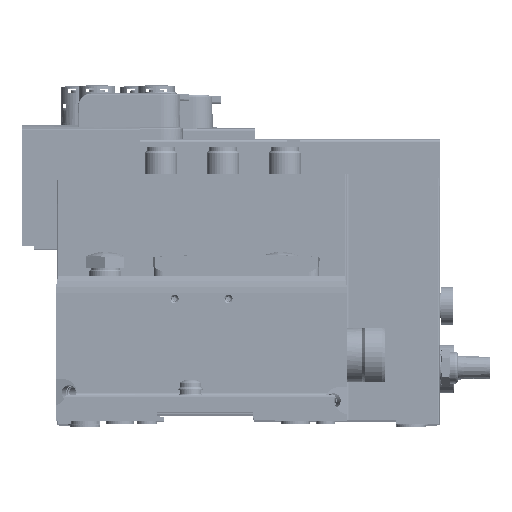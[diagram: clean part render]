
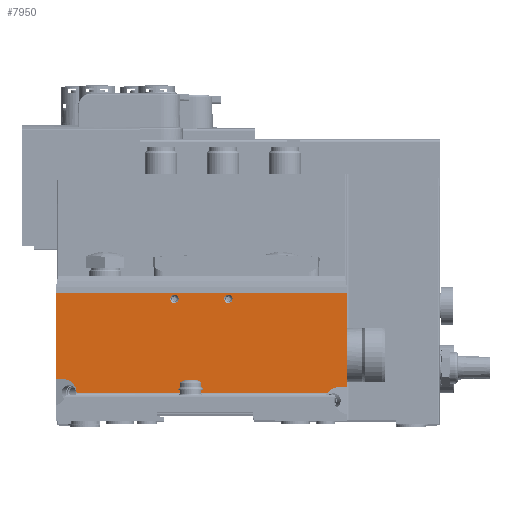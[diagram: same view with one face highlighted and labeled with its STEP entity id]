
A CAD part, top view. The second image highlights one B-rep face of the part: STEP entity #7950.
In plain terms, the highlighted planar face has unit normal (0, 0, 1) as drawn and (-1, 0, 0) by its records, which use the part's own axes.
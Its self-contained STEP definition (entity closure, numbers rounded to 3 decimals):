
#7950 = ADVANCED_FACE( '', ( #17798, #17799, #17800 ), #17801, .F. );
#17798 = FACE_BOUND( '', #29721, .T. );
#17799 = FACE_BOUND( '', #29722, .T. );
#17800 = FACE_OUTER_BOUND( '', #29723, .T. );
#17801 = PLANE( '', #29724 );
#29721 = EDGE_LOOP( '', ( #51337 ) );
#29722 = EDGE_LOOP( '', ( #51338 ) );
#29723 = EDGE_LOOP( '', ( #51339, #51340, #51341, #51342, #51343, #51344, #51345, #51346 ) );
#29724 = AXIS2_PLACEMENT_3D( '', #51347, #51348, #51349 );
#51337 = ORIENTED_EDGE( '', *, *, #69911, .T. );
#51338 = ORIENTED_EDGE( '', *, *, #72925, .T. );
#51339 = ORIENTED_EDGE( '', *, *, #70958, .T. );
#51340 = ORIENTED_EDGE( '', *, *, #72926, .T. );
#51341 = ORIENTED_EDGE( '', *, *, #72927, .F. );
#51342 = ORIENTED_EDGE( '', *, *, #72928, .F. );
#51343 = ORIENTED_EDGE( '', *, *, #72929, .F. );
#51344 = ORIENTED_EDGE( '', *, *, #70045, .T. );
#51345 = ORIENTED_EDGE( '', *, *, #70898, .F. );
#51346 = ORIENTED_EDGE( '', *, *, #66646, .T. );
#51347 = CARTESIAN_POINT( '', ( -15.4, 48.7, 54.05 ) );
#51348 = DIRECTION( '', ( 1., 0., 0. ) );
#51349 = DIRECTION( '', ( 0., 0., -1. ) );
#66646 = EDGE_CURVE( '', #79392, #79398, #79400, .T. );
#69911 = EDGE_CURVE( '', #84761, #84761, #84762, .T. );
#70045 = EDGE_CURVE( '', #84959, #84963, #84965, .T. );
#70898 = EDGE_CURVE( '', #79392, #84963, #86272, .T. );
#70958 = EDGE_CURVE( '', #79398, #86357, #86359, .T. );
#72925 = EDGE_CURVE( '', #89128, #89128, #89129, .T. );
#72926 = EDGE_CURVE( '', #86357, #89130, #89131, .T. );
#72927 = EDGE_CURVE( '', #89132, #89130, #89133, .F. );
#72928 = EDGE_CURVE( '', #89134, #89132, #89135, .T. );
#72929 = EDGE_CURVE( '', #84959, #89134, #89136, .F. );
#79392 = VERTEX_POINT( '', #97538 );
#79398 = VERTEX_POINT( '', #97552 );
#79400 = LINE( '', #97554, #97555 );
#84761 = VERTEX_POINT( '', #104894 );
#84762 = CIRCLE( '', #104895, 1.55 );
#84959 = VERTEX_POINT( '', #105268 );
#84963 = VERTEX_POINT( '', #105274 );
#84965 = LINE( '', #105277, #105278 );
#86272 = LINE( '', #107037, #107038 );
#86357 = VERTEX_POINT( '', #107148 );
#86359 = LINE( '', #107151, #107152 );
#89128 = VERTEX_POINT( '', #111305 );
#89129 = CIRCLE( '', #111306, 1.55 );
#89130 = VERTEX_POINT( '', #111307 );
#89131 = LINE( '', #111308, #111309 );
#89132 = VERTEX_POINT( '', #111310 );
#89133 = ELLIPSE( '', #111311, 5.176, 5. );
#89134 = VERTEX_POINT( '', #111312 );
#89135 = LINE( '', #111313, #111314 );
#89136 = ELLIPSE( '', #111315, 5.132, 5. );
#97538 = CARTESIAN_POINT( '', ( -15.4, 48.7, 54.05 ) );
#97552 = CARTESIAN_POINT( '', ( -15.4, 48.7, -54.05 ) );
#97554 = CARTESIAN_POINT( '', ( -15.4, 48.7, 54.05 ) );
#97555 = VECTOR( '', #119227, 1000. );
#104894 = CARTESIAN_POINT( '', ( -15.4, 46.55, -11.55 ) );
#104895 = AXIS2_PLACEMENT_3D( '', #123583, #123584, #123585 );
#105268 = CARTESIAN_POINT( '', ( -15.4, 13.8, 50.92 ) );
#105274 = CARTESIAN_POINT( '', ( -15.4, 13.8, 54.05 ) );
#105277 = CARTESIAN_POINT( '', ( -15.4, 13.8, 54.05 ) );
#105278 = VECTOR( '', #123737, 1000. );
#107037 = CARTESIAN_POINT( '', ( -15.4, 48.7, 54.05 ) );
#107038 = VECTOR( '', #124916, 1000. );
#107148 = CARTESIAN_POINT( '', ( -15.4, 16.8, -54.05 ) );
#107151 = CARTESIAN_POINT( '', ( -15.4, 48.7, -54.05 ) );
#107152 = VECTOR( '', #124982, 1000. );
#111305 = CARTESIAN_POINT( '', ( -15.4, 46.55, 8.45 ) );
#111306 = AXIS2_PLACEMENT_3D( '', #127341, #127342, #127343 );
#111307 = CARTESIAN_POINT( '', ( -15.4, 16.8, -51.491 ) );
#111308 = CARTESIAN_POINT( '', ( -15.4, 16.8, 54.05 ) );
#111309 = VECTOR( '', #127344, 1000. );
#111310 = CARTESIAN_POINT( '', ( -15.4, 11.6, -46.319 ) );
#111311 = AXIS2_PLACEMENT_3D( '', #127345, #127346, #127347 );
#111312 = CARTESIAN_POINT( '', ( -15.4, 11.6, 46.669 ) );
#111313 = CARTESIAN_POINT( '', ( -15.4, 11.6, 54.05 ) );
#111314 = VECTOR( '', #127348, 1000. );
#111315 = AXIS2_PLACEMENT_3D( '', #127349, #127350, #127351 );
#119227 = DIRECTION( '', ( 0., 0., -1. ) );
#123583 = CARTESIAN_POINT( '', ( -15.4, 46.55, -10. ) );
#123584 = DIRECTION( '', ( 1., 0., 0. ) );
#123585 = DIRECTION( '', ( 0., 0., -1. ) );
#123737 = DIRECTION( '', ( 0., 0., 1. ) );
#124916 = DIRECTION( '', ( 0., -1., 0. ) );
#124982 = DIRECTION( '', ( 0., -1., 0. ) );
#127341 = CARTESIAN_POINT( '', ( -15.4, 46.55, 10. ) );
#127342 = DIRECTION( '', ( 1., 0., 0. ) );
#127343 = DIRECTION( '', ( 0., 0., -1. ) );
#127344 = DIRECTION( '', ( 0., 0., 1. ) );
#127345 = CARTESIAN_POINT( '', ( -15.4, 11.8, -51.491 ) );
#127346 = DIRECTION( '', ( 1., 0., 0. ) );
#127347 = DIRECTION( '', ( 0., 0., 1. ) );
#127348 = DIRECTION( '', ( 0., 0., -1. ) );
#127349 = CARTESIAN_POINT( '', ( -15.4, 8.8, 50.92 ) );
#127350 = DIRECTION( '', ( 1., 0., 0. ) );
#127351 = DIRECTION( '', ( 0., 0., -1. ) );
